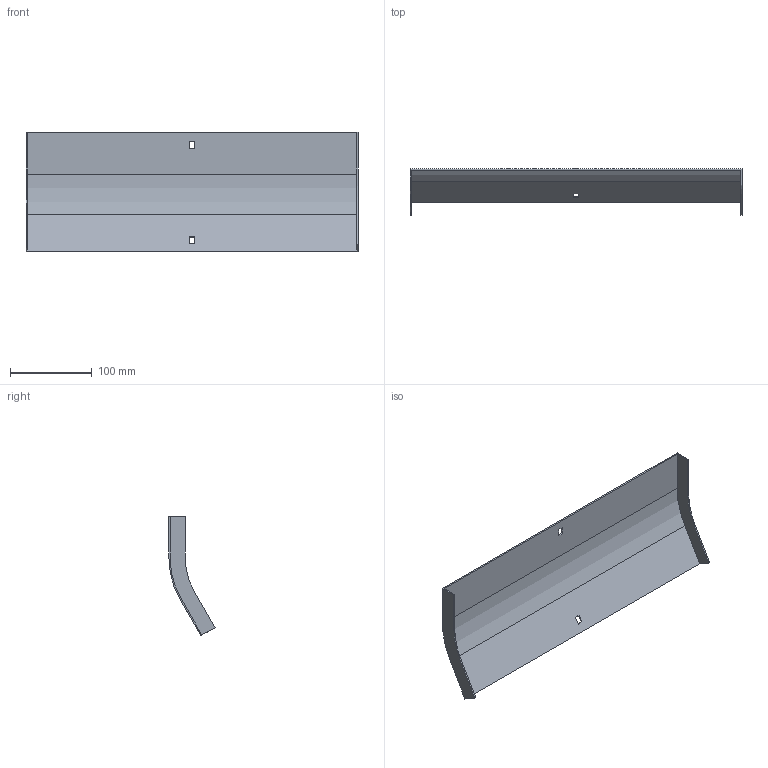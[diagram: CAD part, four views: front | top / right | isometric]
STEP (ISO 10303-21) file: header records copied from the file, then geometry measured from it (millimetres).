
FILE_DESCRIPTION (( 'STEP AP214' ), '1' );
FILE_NAME ('35G1C400.step', '2025-02-21T12:42:01', ( '' ), ( '' ), 'SwSTEP 2.0', 'SolidWorks 2023', '' );
FILE_SCHEMA (( 'AUTOMOTIVE_DESIGN' ));
Length unit declared in the file: millimetre
Products named in the file (1): 35G1C400
Bounding box: 407 x 56.52 x 146.29 mm (x, y, z)
Volume: 102865.5 mm3; surface area: 139015.4 mm2
Topology: 1 solids, 1 shells, 26 faces, 72 edges, 48 vertices
Faces by surface type: plane 22, cylinder 4
Entity records: 855 total; most frequent: CARTESIAN_POINT 147, ORIENTED_EDGE 144, DIRECTION 134, EDGE_CURVE 72, LINE 64, VECTOR 64, VERTEX_POINT 48, AXIS2_PLACEMENT_3D 35
